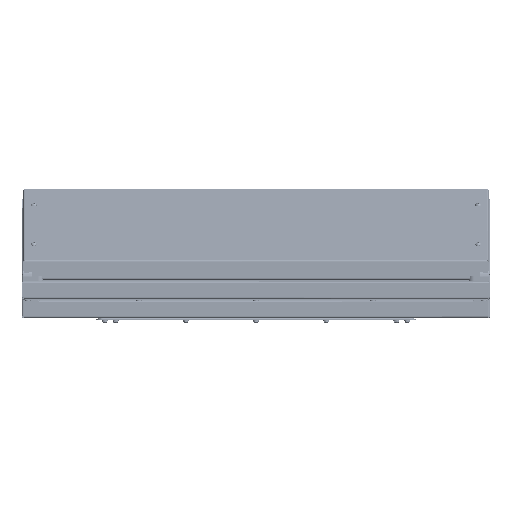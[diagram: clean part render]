
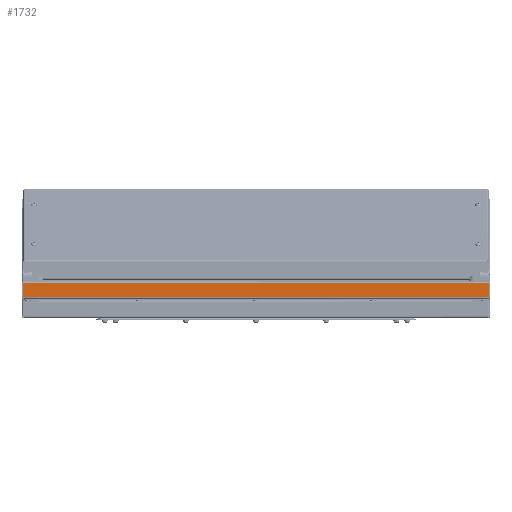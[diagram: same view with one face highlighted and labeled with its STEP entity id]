
A CAD part, top view. The second image highlights one B-rep face of the part: STEP entity #1732.
In plain terms, the highlighted planar face has unit normal (0, 0, 1) as drawn and (0, -1, 0) by its records, which use the part's own axes.
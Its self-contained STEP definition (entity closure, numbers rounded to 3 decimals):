
#1732 = ADVANCED_FACE ( 'NONE', ( #13988 ), #4916, .F. ) ;
#1802 = EDGE_CURVE ( 'NONE', #19631, #29112, #8393, .T. ) ;
#3279 = EDGE_CURVE ( 'NONE', #40258, #37515, #4840, .T. ) ;
#4840 = LINE ( 'NONE', #10450, #14149 ) ;
#4916 = PLANE ( 'NONE',  #8007 ) ;
#7706 = CARTESIAN_POINT ( 'NONE',  ( 397.893, -400., 25.8 ) ) ;
#7758 = ORIENTED_EDGE ( 'NONE', *, *, #58577, .T. ) ;
#8007 = AXIS2_PLACEMENT_3D ( 'NONE', #47542, #37230, #47856 ) ;
#8393 = LINE ( 'NONE', #61331, #23996 ) ;
#9102 = CARTESIAN_POINT ( 'NONE',  ( -400., -400., 1.4 ) ) ;
#10450 = CARTESIAN_POINT ( 'NONE',  ( 397.893, -400., 0. ) ) ;
#10528 = ORIENTED_EDGE ( 'NONE', *, *, #3279, .T. ) ;
#13159 = LINE ( 'NONE', #9102, #20141 ) ;
#13988 = FACE_OUTER_BOUND ( 'NONE', #26439, .T. ) ;
#14149 = VECTOR ( 'NONE', #28958, 1000. ) ;
#14516 = EDGE_CURVE ( 'NONE', #40258, #19631, #13159, .T. ) ;
#19631 = VERTEX_POINT ( 'NONE', #44141 ) ;
#20141 = VECTOR ( 'NONE', #57026, 1000. ) ;
#22087 = DIRECTION ( 'NONE',  ( -1., 0., 0. ) ) ;
#23394 = DIRECTION ( 'NONE',  ( 0., 0., 1. ) ) ;
#23996 = VECTOR ( 'NONE', #23394, 1000. ) ;
#24759 = ORIENTED_EDGE ( 'NONE', *, *, #1802, .F. ) ;
#26439 = EDGE_LOOP ( 'NONE', ( #7758, #24759, #57228, #10528 ) ) ;
#28710 = CARTESIAN_POINT ( 'NONE',  ( 397.893, -400., 1.4 ) ) ;
#28958 = DIRECTION ( 'NONE',  ( 0., 0., 1. ) ) ;
#29112 = VERTEX_POINT ( 'NONE', #46861 ) ;
#37230 = DIRECTION ( 'NONE',  ( 0., 1., 0. ) ) ;
#37515 = VERTEX_POINT ( 'NONE', #39357 ) ;
#39357 = CARTESIAN_POINT ( 'NONE',  ( 397.893, -400., 25.8 ) ) ;
#40258 = VERTEX_POINT ( 'NONE', #28710 ) ;
#44141 = CARTESIAN_POINT ( 'NONE',  ( -397.893, -400., 1.4 ) ) ;
#46861 = CARTESIAN_POINT ( 'NONE',  ( -397.893, -400., 25.8 ) ) ;
#47542 = CARTESIAN_POINT ( 'NONE',  ( 0., -400., 0. ) ) ;
#47856 = DIRECTION ( 'NONE',  ( 0., 0., 1. ) ) ;
#52205 = VECTOR ( 'NONE', #22087, 1000. ) ;
#57026 = DIRECTION ( 'NONE',  ( -1., 0., 0. ) ) ;
#57228 = ORIENTED_EDGE ( 'NONE', *, *, #14516, .F. ) ;
#58577 = EDGE_CURVE ( 'NONE', #37515, #29112, #60010, .T. ) ;
#60010 = LINE ( 'NONE', #7706, #52205 ) ;
#61331 = CARTESIAN_POINT ( 'NONE',  ( -397.893, -400., 0. ) ) ;
